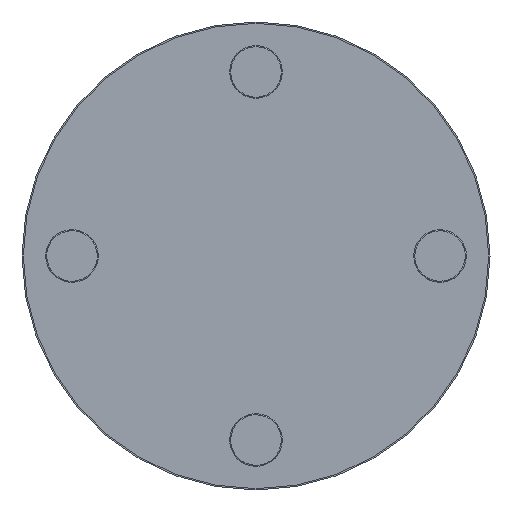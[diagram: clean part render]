
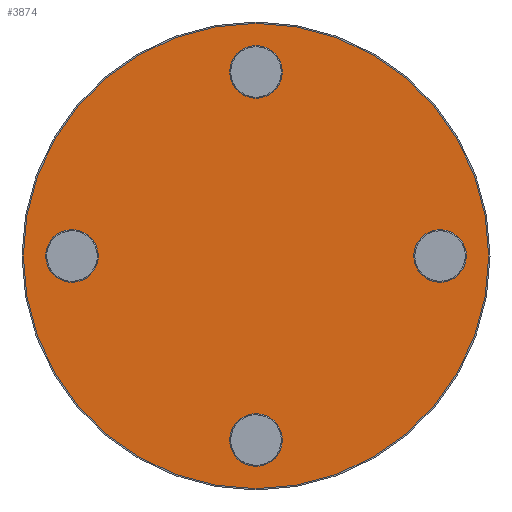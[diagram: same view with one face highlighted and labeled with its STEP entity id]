
A CAD part, front view. The second image highlights one B-rep face of the part: STEP entity #3874.
In plain terms, the highlighted planar face has unit normal (0, -1, 0).
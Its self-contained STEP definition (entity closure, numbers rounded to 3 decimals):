
#5 = DIRECTION ( 'NONE',  ( 0., 0., 1. ) ) ;
#195 = CARTESIAN_POINT ( 'NONE',  ( 0., -1.5, -38.4 ) ) ;
#208 = ORIENTED_EDGE ( 'NONE', *, *, #3136, .F. ) ;
#339 = DIRECTION ( 'NONE',  ( 0., 1., 0. ) ) ;
#405 = DIRECTION ( 'NONE',  ( 0., 1., 0. ) ) ;
#457 = VERTEX_POINT ( 'NONE', #955 ) ;
#461 = EDGE_LOOP ( 'NONE', ( #208, #3462 ) ) ;
#508 = DIRECTION ( 'NONE',  ( 0., 0., 1. ) ) ;
#567 = CARTESIAN_POINT ( 'NONE',  ( 0., -1.5, -31.6 ) ) ;
#613 = AXIS2_PLACEMENT_3D ( 'NONE', #6110, #6148, #4023 ) ;
#744 = DIRECTION ( 'NONE',  ( 0., 0., 1. ) ) ;
#773 = CARTESIAN_POINT ( 'NONE',  ( 0., -1.5, 0. ) ) ;
#858 = VERTEX_POINT ( 'NONE', #6367 ) ;
#882 = VERTEX_POINT ( 'NONE', #1093 ) ;
#908 = AXIS2_PLACEMENT_3D ( 'NONE', #1022, #405, #991 ) ;
#920 = CIRCLE ( 'NONE', #4064, 3.4 ) ;
#955 = CARTESIAN_POINT ( 'NONE',  ( -35., -1.5, 3.4 ) ) ;
#991 = DIRECTION ( 'NONE',  ( 0., 0., 1. ) ) ;
#1022 = CARTESIAN_POINT ( 'NONE',  ( 0., -1.5, -35. ) ) ;
#1093 = CARTESIAN_POINT ( 'NONE',  ( 0., -1.5, 31.6 ) ) ;
#1109 = DIRECTION ( 'NONE',  ( 0., 1., 0. ) ) ;
#1225 = DIRECTION ( 'NONE',  ( 0., 1., 0. ) ) ;
#1361 = CARTESIAN_POINT ( 'NONE',  ( 0., -1.5, -44.25 ) ) ;
#1394 = FACE_OUTER_BOUND ( 'NONE', #461, .T. ) ;
#1428 = DIRECTION ( 'NONE',  ( 0., 1., 0. ) ) ;
#1466 = FACE_BOUND ( 'NONE', #3111, .T. ) ;
#1490 = CARTESIAN_POINT ( 'NONE',  ( 0., -1.5, 44.25 ) ) ;
#1526 = CARTESIAN_POINT ( 'NONE',  ( -35., -1.5, 0. ) ) ;
#1634 = CIRCLE ( 'NONE', #6524, 3.4 ) ;
#1835 = CIRCLE ( 'NONE', #613, 3.4 ) ;
#1880 = EDGE_CURVE ( 'NONE', #457, #4013, #920, .T. ) ;
#1916 = FACE_BOUND ( 'NONE', #3048, .T. ) ;
#1950 = AXIS2_PLACEMENT_3D ( 'NONE', #3005, #339, #2449 ) ;
#2055 = CIRCLE ( 'NONE', #5759, 3.4 ) ;
#2323 = CARTESIAN_POINT ( 'NONE',  ( 35., -1.5, 0. ) ) ;
#2428 = DIRECTION ( 'NONE',  ( 0., 0., 1. ) ) ;
#2449 = DIRECTION ( 'NONE',  ( 0., 0., 1. ) ) ;
#2727 = ORIENTED_EDGE ( 'NONE', *, *, #4642, .T. ) ;
#2776 = DIRECTION ( 'NONE',  ( 0., 1., 0. ) ) ;
#2884 = ORIENTED_EDGE ( 'NONE', *, *, #4502, .T. ) ;
#3005 = CARTESIAN_POINT ( 'NONE',  ( 0., -1.5, 35. ) ) ;
#3048 = EDGE_LOOP ( 'NONE', ( #6159, #5034 ) ) ;
#3063 = DIRECTION ( 'NONE',  ( 0., 1., 0. ) ) ;
#3111 = EDGE_LOOP ( 'NONE', ( #2884, #3707 ) ) ;
#3136 = EDGE_CURVE ( 'NONE', #4542, #6699, #4215, .T. ) ;
#3264 = DIRECTION ( 'NONE',  ( 0., 0., 1. ) ) ;
#3306 = DIRECTION ( 'NONE',  ( 0., 0., 1. ) ) ;
#3307 = EDGE_CURVE ( 'NONE', #3607, #3435, #3890, .T. ) ;
#3435 = VERTEX_POINT ( 'NONE', #567 ) ;
#3462 = ORIENTED_EDGE ( 'NONE', *, *, #6084, .F. ) ;
#3607 = VERTEX_POINT ( 'NONE', #195 ) ;
#3668 = EDGE_CURVE ( 'NONE', #5878, #5691, #4119, .T. ) ;
#3707 = ORIENTED_EDGE ( 'NONE', *, *, #5895, .T. ) ;
#3746 = CARTESIAN_POINT ( 'NONE',  ( -35., -1.5, 0. ) ) ;
#3839 = EDGE_CURVE ( 'NONE', #5691, #5878, #5603, .T. ) ;
#3874 = ADVANCED_FACE ( 'NONE', ( #5040, #1916, #1466, #6073, #1394 ), #4553, .F. ) ;
#3890 = CIRCLE ( 'NONE', #908, 3.4 ) ;
#4013 = VERTEX_POINT ( 'NONE', #5364 ) ;
#4023 = DIRECTION ( 'NONE',  ( 0., 0., 1. ) ) ;
#4064 = AXIS2_PLACEMENT_3D ( 'NONE', #3746, #1109, #3264 ) ;
#4119 = CIRCLE ( 'NONE', #4646, 3.4 ) ;
#4215 = CIRCLE ( 'NONE', #4532, 44.25 ) ;
#4262 = DIRECTION ( 'NONE',  ( 0., 1., 0. ) ) ;
#4368 = CIRCLE ( 'NONE', #6322, 44.25 ) ;
#4450 = ORIENTED_EDGE ( 'NONE', *, *, #3307, .T. ) ;
#4502 = EDGE_CURVE ( 'NONE', #858, #882, #6312, .T. ) ;
#4530 = DIRECTION ( 'NONE',  ( 0., 1., 0. ) ) ;
#4532 = AXIS2_PLACEMENT_3D ( 'NONE', #773, #1225, #744 ) ;
#4542 = VERTEX_POINT ( 'NONE', #1490 ) ;
#4553 = PLANE ( 'NONE',  #5833 ) ;
#4642 = EDGE_CURVE ( 'NONE', #4013, #457, #2055, .T. ) ;
#4646 = AXIS2_PLACEMENT_3D ( 'NONE', #2323, #2776, #3306 ) ;
#5001 = ORIENTED_EDGE ( 'NONE', *, *, #1880, .T. ) ;
#5006 = CARTESIAN_POINT ( 'NONE',  ( 35., -1.5, 0. ) ) ;
#5016 = CARTESIAN_POINT ( 'NONE',  ( 35., -1.5, -3.4 ) ) ;
#5034 = ORIENTED_EDGE ( 'NONE', *, *, #3668, .T. ) ;
#5040 = FACE_BOUND ( 'NONE', #5851, .T. ) ;
#5095 = DIRECTION ( 'NONE',  ( 0., 0., 1. ) ) ;
#5107 = ORIENTED_EDGE ( 'NONE', *, *, #6494, .T. ) ;
#5162 = CARTESIAN_POINT ( 'NONE',  ( 0., -1.5, 0. ) ) ;
#5364 = CARTESIAN_POINT ( 'NONE',  ( -35., -1.5, -3.4 ) ) ;
#5603 = CIRCLE ( 'NONE', #6168, 3.4 ) ;
#5691 = VERTEX_POINT ( 'NONE', #5792 ) ;
#5759 = AXIS2_PLACEMENT_3D ( 'NONE', #1526, #6236, #5 ) ;
#5792 = CARTESIAN_POINT ( 'NONE',  ( 35., -1.5, 3.4 ) ) ;
#5833 = AXIS2_PLACEMENT_3D ( 'NONE', #6612, #3063, #6144 ) ;
#5851 = EDGE_LOOP ( 'NONE', ( #5107, #4450 ) ) ;
#5878 = VERTEX_POINT ( 'NONE', #5016 ) ;
#5895 = EDGE_CURVE ( 'NONE', #882, #858, #1634, .T. ) ;
#6053 = CARTESIAN_POINT ( 'NONE',  ( 0., -1.5, 35. ) ) ;
#6073 = FACE_BOUND ( 'NONE', #6547, .T. ) ;
#6084 = EDGE_CURVE ( 'NONE', #6699, #4542, #4368, .T. ) ;
#6110 = CARTESIAN_POINT ( 'NONE',  ( 0., -1.5, -35. ) ) ;
#6144 = DIRECTION ( 'NONE',  ( 0., 0., 1. ) ) ;
#6148 = DIRECTION ( 'NONE',  ( 0., 1., 0. ) ) ;
#6159 = ORIENTED_EDGE ( 'NONE', *, *, #3839, .T. ) ;
#6168 = AXIS2_PLACEMENT_3D ( 'NONE', #5006, #1428, #2428 ) ;
#6236 = DIRECTION ( 'NONE',  ( 0., 1., 0. ) ) ;
#6312 = CIRCLE ( 'NONE', #1950, 3.4 ) ;
#6322 = AXIS2_PLACEMENT_3D ( 'NONE', #5162, #4262, #508 ) ;
#6367 = CARTESIAN_POINT ( 'NONE',  ( 0., -1.5, 38.4 ) ) ;
#6494 = EDGE_CURVE ( 'NONE', #3435, #3607, #1835, .T. ) ;
#6524 = AXIS2_PLACEMENT_3D ( 'NONE', #6053, #4530, #5095 ) ;
#6547 = EDGE_LOOP ( 'NONE', ( #5001, #2727 ) ) ;
#6612 = CARTESIAN_POINT ( 'NONE',  ( 0., -1.5, 0. ) ) ;
#6699 = VERTEX_POINT ( 'NONE', #1361 ) ;
